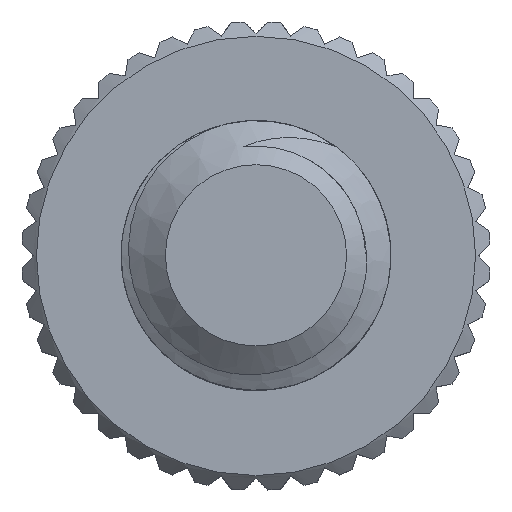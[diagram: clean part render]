
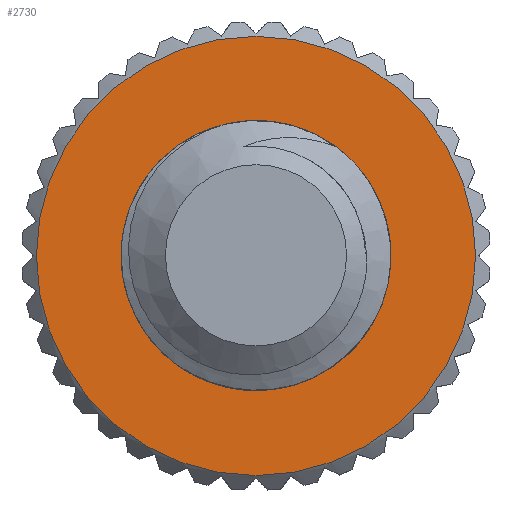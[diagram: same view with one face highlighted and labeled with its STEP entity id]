
A CAD part, top view. The second image highlights one B-rep face of the part: STEP entity #2730.
In plain terms, the highlighted planar face has unit normal (0, 0, 1).
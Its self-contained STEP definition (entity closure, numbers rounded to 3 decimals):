
#15=FACE_BOUND('',#567,.T.);
#268=PLANE('',#2991);
#420=FACE_OUTER_BOUND('',#566,.T.);
#566=EDGE_LOOP('',(#2516));
#567=EDGE_LOOP('',(#2517));
#583=CIRCLE('',#2776,7.5);
#665=CIRCLE('',#2990,4.031);
#1006=VERTEX_POINT('',#4816);
#1253=VERTEX_POINT('',#5884);
#1306=EDGE_CURVE('',#1006,#1006,#583,.T.);
#1680=EDGE_CURVE('',#1253,#1253,#665,.T.);
#2516=ORIENTED_EDGE('',*,*,#1306,.F.);
#2517=ORIENTED_EDGE('',*,*,#1680,.F.);
#2730=ADVANCED_FACE('',(#420,#15),#268,.T.);
#2776=AXIS2_PLACEMENT_3D('',#4817,#3064,#3065);
#2990=AXIS2_PLACEMENT_3D('',#5886,#3616,#3617);
#2991=AXIS2_PLACEMENT_3D('',#5887,#3618,#3619);
#3064=DIRECTION('center_axis',(0.,0.,-1.));
#3065=DIRECTION('ref_axis',(-1.,0.,0.));
#3616=DIRECTION('center_axis',(0.,0.,1.));
#3617=DIRECTION('ref_axis',(-1.,0.,0.));
#3618=DIRECTION('center_axis',(0.,0.,1.));
#3619=DIRECTION('ref_axis',(1.,0.,0.));
#4816=CARTESIAN_POINT('',(7.5,0.,2.5));
#4817=CARTESIAN_POINT('Origin',(0.,0.,2.5));
#5884=CARTESIAN_POINT('',(4.031,0.,2.5));
#5886=CARTESIAN_POINT('Origin',(0.,0.,2.5));
#5887=CARTESIAN_POINT('Origin',(0.,0.,2.5));
